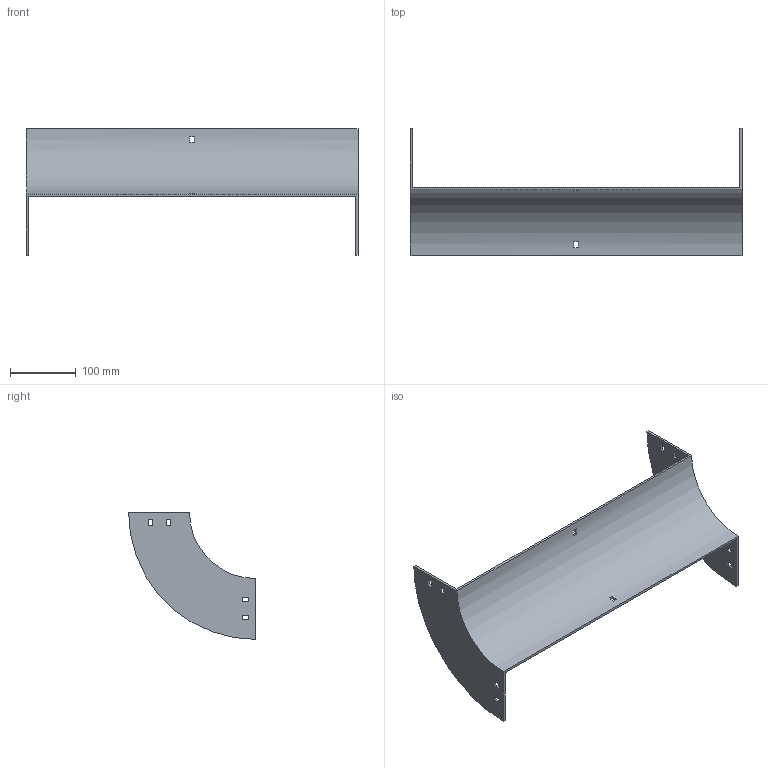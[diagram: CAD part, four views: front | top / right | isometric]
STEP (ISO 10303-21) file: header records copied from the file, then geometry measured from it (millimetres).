
FILE_DESCRIPTION (( 'STEP AP214' ), '1' );
FILE_NAME ('33B1I500.step', '2025-02-21T09:33:15', ( '' ), ( '' ), 'SwSTEP 2.0', 'SolidWorks 2023', '' );
FILE_SCHEMA (( 'AUTOMOTIVE_DESIGN' ));
Length unit declared in the file: millimetre
Products named in the file (1): 33B1I500
Bounding box: 504 x 192.5 x 192.5 mm (x, y, z)
Volume: 424396.1 mm3; surface area: 250555.5 mm2
Topology: 1 solids, 1 shells, 50 faces, 144 edges, 96 vertices
Faces by surface type: plane 46, cylinder 4
Entity records: 1687 total; most frequent: CARTESIAN_POINT 291, ORIENTED_EDGE 288, DIRECTION 262, EDGE_CURVE 144, LINE 128, VECTOR 128, VERTEX_POINT 96, EDGE_LOOP 70
